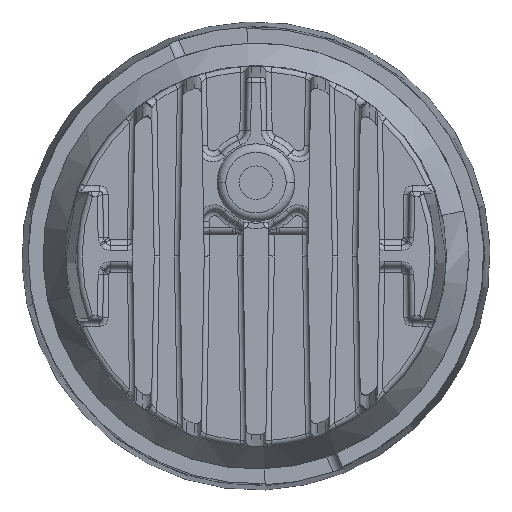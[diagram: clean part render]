
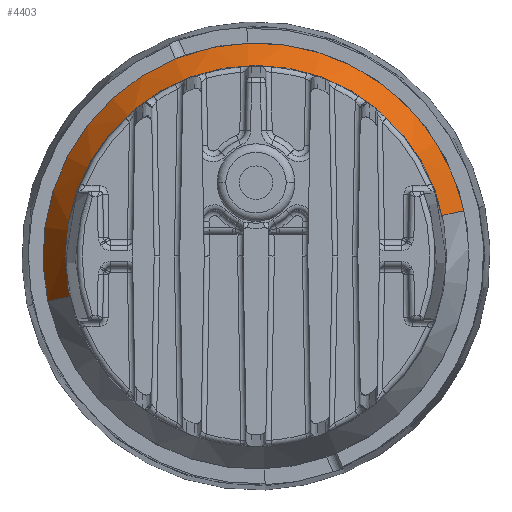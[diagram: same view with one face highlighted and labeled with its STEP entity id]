
A CAD part, front view. The second image highlights one B-rep face of the part: STEP entity #4403.
In plain terms, the highlighted conical face has half-angle 30 degrees and reference radius 17.099 mm.
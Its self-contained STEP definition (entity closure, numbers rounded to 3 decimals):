
#2017=CARTESIAN_POINT('',(-250.,25.083,0.));
#2018=DIRECTION('',(0.,1.,0.));
#2019=DIRECTION('',(-0.977,0.,-0.213));
#2020=AXIS2_PLACEMENT_3D('',#2017,#2018,#2019);
#2022=DIRECTION('',(0.489,-0.866,0.106));
#2023=VECTOR('',#2022,10.605);
#2024=CARTESIAN_POINT('',(-269.297,34.268,
-4.205));
#2025=LINE('',#2024,#2023);
#2026=CARTESIAN_POINT('',(-250.,34.268,0.));
#2027=DIRECTION('',(0.,1.,0.));
#2028=DIRECTION('',(-0.977,0.,-0.213));
#2029=AXIS2_PLACEMENT_3D('',#2026,#2027,#2028);
#2031=DIRECTION('',(-0.489,-0.866,-0.106));
#2032=VECTOR('',#2031,10.605);
#2033=CARTESIAN_POINT('',(-230.703,34.268,4.205));
#2034=LINE('',#2033,#2032);
#3121=CARTESIAN_POINT('',(-269.297,34.268,
-4.205));
#3122=VERTEX_POINT('',#3121);
#3123=CARTESIAN_POINT('',(-230.703,34.268,4.205));
#3124=VERTEX_POINT('',#3123);
#3235=CARTESIAN_POINT('',(-235.884,25.083,3.076));
#3236=CARTESIAN_POINT('',(-264.116,25.083,
-3.076));
#3237=VERTEX_POINT('',#3235);
#3238=VERTEX_POINT('',#3236);
#4389=CARTESIAN_POINT('',(-250.,29.676,0.));
#4390=DIRECTION('',(0.,1.,0.));
#4391=DIRECTION('',(-0.977,0.,-0.213));
#4392=AXIS2_PLACEMENT_3D('',#4389,#4390,#4391);
#4393=CONICAL_SURFACE('',#4392,17.099,30.);
#4394=ORIENTED_EDGE('',*,*,#4383,.F.);
#4396=ORIENTED_EDGE('',*,*,#4395,.F.);
#4398=ORIENTED_EDGE('',*,*,#4397,.T.);
#4400=ORIENTED_EDGE('',*,*,#4399,.T.);
#4401=EDGE_LOOP('',(#4394,#4396,#4398,#4400));
#4402=FACE_OUTER_BOUND('',#4401,.F.);
#4403=ADVANCED_FACE('',(#4402),#4393,.T.);
#2021=CIRCLE('',#2020,14.447);
#2030=CIRCLE('',#2029,19.75);
#4383=EDGE_CURVE('',#3238,#3237,#2021,.T.);
#4395=EDGE_CURVE('',#3122,#3238,#2025,.T.);
#4397=EDGE_CURVE('',#3122,#3124,#2030,.T.);
#4399=EDGE_CURVE('',#3124,#3237,#2034,.T.);
